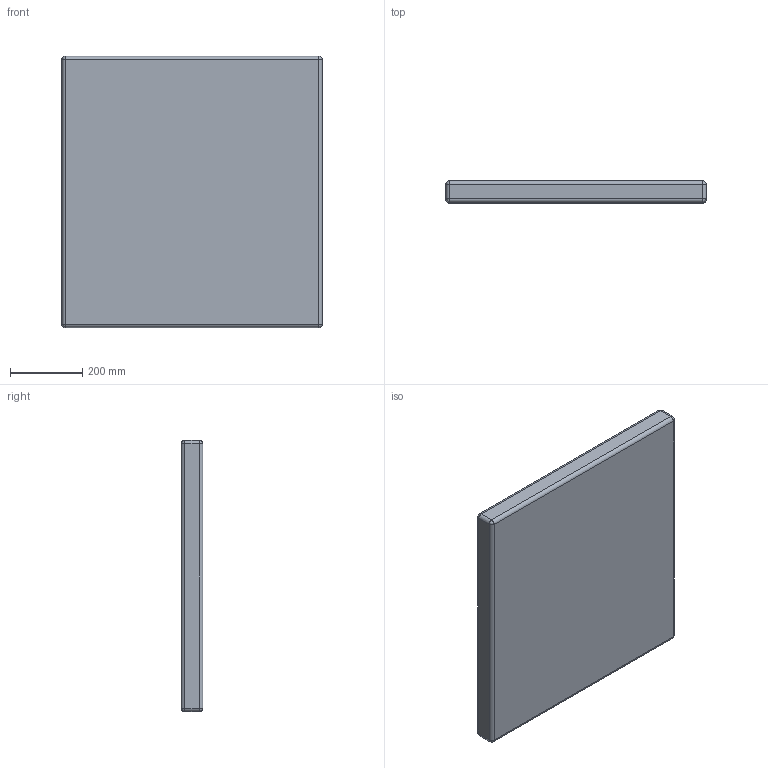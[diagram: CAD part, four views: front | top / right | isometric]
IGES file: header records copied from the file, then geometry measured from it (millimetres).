
Start section: SolidWorks IGES file using NURBS representation for surfaces
Global section: file name: D:\VICCARBE\PRODUCTOS\19-MASS\04-MODELADOS (PLANOS)\SOLIDWORKS\PIEZAS\Bases\01-IGES\VICCARBE_Mass_base_72.IGS; native system: SolidWorks 2009; preprocessor: SolidWorks 2009; author: RUBEN; date: 110908.162138; units: millimetre
Bounding box: 720 x 60 x 750 mm (x, y, z)
Surface area: 1230019.5 mm2 (no closed solid volume)
Topology: 0 solids, 0 shells, 26 faces, 104 edges, 96 vertices
Faces by surface type: bspline 26
